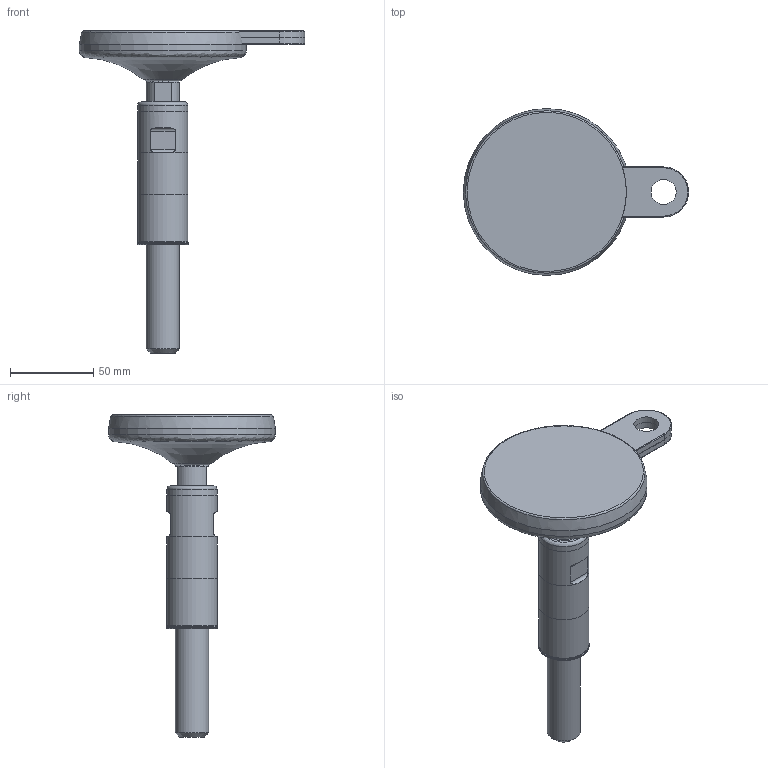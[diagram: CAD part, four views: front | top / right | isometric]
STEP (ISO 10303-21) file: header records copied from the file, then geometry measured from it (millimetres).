
FILE_DESCRIPTION(('STEP AP203'),'2;1');
FILE_NAME('27022-F.stp','2017-12-18T16:04:02',(''),(''),'2014.1.117','THINKDESIGN','');
FILE_SCHEMA(('CONFIG_CONTROL_DESIGN'));
Length unit declared in the file: millimetre
Bounding box: 135 x 100 x 193 mm (x, y, z)
Volume: 239236.9 mm3; surface area: 69697.4 mm2
Topology: 9 solids, 9 shells, 97 faces, 251 edges, 178 vertices
Faces by surface type: cylinder 37, plane 35, bspline 25
Full cylindrical faces by diameter (mm): 15 x2, 17.5 x1, 19.8 x1, 20 x2, 20.2 x3, 22.8 x2, 23 x2, 26 x2, 27 x2, 30 x4, 30.4 x1, 100 x1
Entity records: 4903 total; most frequent: CARTESIAN_POINT 2417, DIRECTION 514, ORIENTED_EDGE 432, AXIS2_PLACEMENT_3D 223, EDGE_CURVE 216, VERTEX_POINT 153, CIRCLE 151, EDGE_LOOP 103
